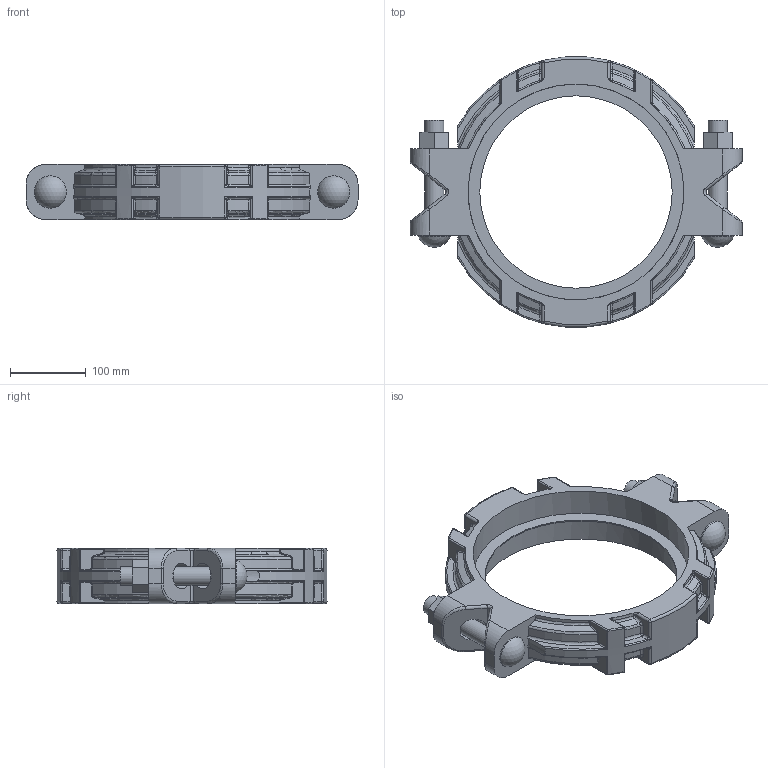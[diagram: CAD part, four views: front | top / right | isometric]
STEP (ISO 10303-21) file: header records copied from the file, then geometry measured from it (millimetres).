
FILE_DESCRIPTION(/* description */ ('VIC COUPLING FLEXIBLE STYLE XL77','CAx-IF Rec.Pracs.---Representation and Presentation of Product Manufacturing Information (PMI)---4.0---2014-10-13'),/* implementation_level */ '2;1');
FILE_NAME(/* name */ 'C:\Users\kkamble\AppData\Roaming\Autodesk\ApplicationPlugins\Back Up\Victaulic_IPS-XL_Coupling Flexible Transition_Style XL77 (XLGxOGS)\Victaulic_IPS-XL_Coupling Flexible Transition_Style XL77 (XLGxOGS)_10 (250).stp',/* time_stamp */ '2020-08-05T13:48:46+05:00',/* author */ ('jheald'),/* organization */ ('Victaulic'),/* preprocessor_version */ 'ST-DEVELOPER v17.2',/* originating_system */ 'Autodesk Inventor 2019',/* authorisation */ '');
FILE_SCHEMA (('AP242_MANAGED_MODEL_BASED_3D_ENGINEERING_MIM_LF { 1 0 10303 442 1 1 4 }'));
Length unit declared in the file: inch
Products named in the file (1): XL77-10.0
Bounding box: 439.52 x 357.75 x 73.16 mm (x, y, z)
Volume: 2866863.2 mm3; surface area: 318219.7 mm2
Topology: 1 solids, 1 shells, 579 faces, 1382 edges, 793 vertices
Faces by surface type: cylinder 197, bspline 144, torus 96, plane 84, sphere 42, cone 16
Full cylindrical faces by diameter (mm): 25.4 x4, 42.85 x2, 254.794 x1, 273.05 x1, 285.75 x1
Entity records: 22347 total; most frequent: CARTESIAN_POINT 9123, ORIENTED_EDGE 2716, DIRECTION 2521, EDGE_CURVE 1358, AXIS2_PLACEMENT_3D 1062, VERTEX_POINT 793, EDGE_LOOP 597, CIRCLE 589
